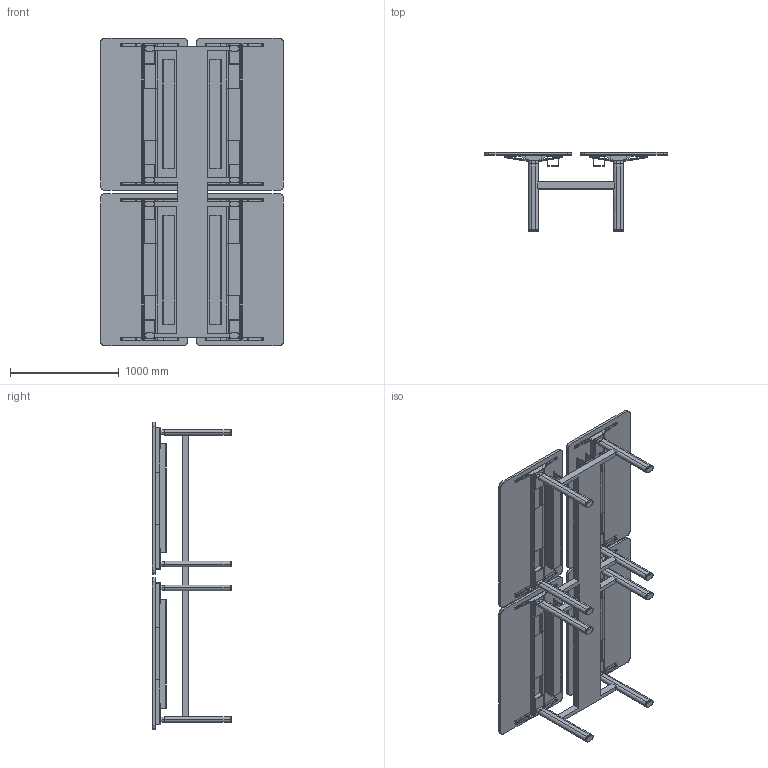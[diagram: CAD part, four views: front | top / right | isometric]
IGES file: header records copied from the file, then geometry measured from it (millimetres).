
Start section: SolidWorks IGES file using analytic representation for surfaces
Global section: file name: C:\Users\simone.cerana\OneDrive - Gruppo Tecno\Desktop\CHINA\DISEGNI DI SERIE\ASSIEMI LISTINO\AXIS LISTINO\FULL OPT\AX2816FO.IGS; native system: SolidWorks 2024; preprocessor: SolidWorks 2024; author: simone.cerana; date: 260512.113659; units: millimetre
Bounding box: 1680 x 730.14 x 2830 mm (x, y, z)
Surface area: 17539892.7 mm2 (no closed solid volume)
Topology: 0 solids, 0 shells, 1246 faces, 13976 edges, 13960 vertices
Faces by surface type: bspline 670, revolution 576
